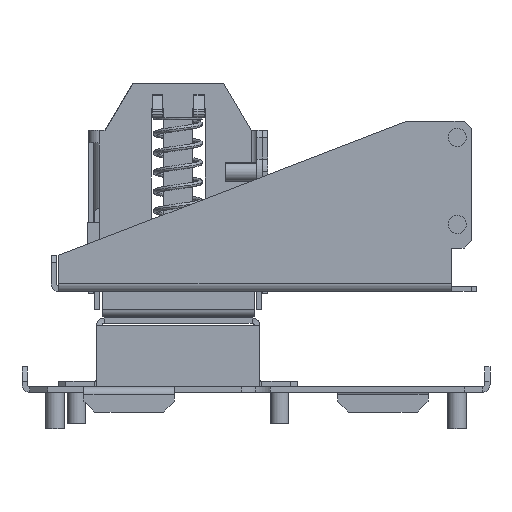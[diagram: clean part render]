
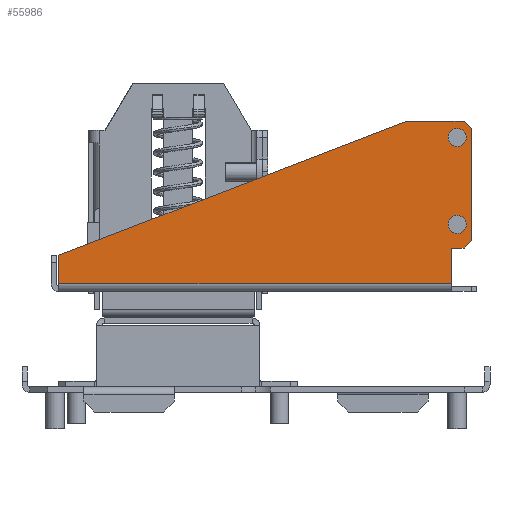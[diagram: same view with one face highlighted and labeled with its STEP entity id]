
A CAD part, left-side view. The second image highlights one B-rep face of the part: STEP entity #55986.
In plain terms, the highlighted planar face has unit normal (-1, 0, 0).
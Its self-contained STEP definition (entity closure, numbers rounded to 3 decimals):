
#50636=CARTESIAN_POINT(' ',(-111.25,-50.4,0.6));
#50637=VERTEX_POINT(' ',#50636);
#50651=CARTESIAN_POINT(' ',(-111.25,-50.4,0.6));
#50656=DIRECTION(' ',(0.,1.,0.));
#50661=VECTOR(' ',#50656,1.);
#50666=LINE('',#50651,#50661);
#50671=CARTESIAN_POINT(' ',(-111.25,58.,0.6));
#50672=VERTEX_POINT(' ',#50671);
#50676=EDGE_CURVE(' ',#50637,#50672,#50666,.T.);
#55456=CARTESIAN_POINT(' ',(-111.25,-50.4,10.5));
#55457=VERTEX_POINT(' ',#55456);
#55471=CARTESIAN_POINT(' ',(-111.25,-50.4,10.5));
#55476=DIRECTION(' ',(0.,0.,-1.));
#55481=VECTOR(' ',#55476,1.);
#55486=LINE('',#55471,#55481);
#55491=EDGE_CURVE(' ',#55457,#50637,#55486,.T.);
#55521=DIRECTION(' ',(-1.,-0.,0.));
#55526=CARTESIAN_POINT(' ',(-111.25,-55.9,45.5));
#55531=DIRECTION(' ',(-0.,1.,0.));
#55536=AXIS2_PLACEMENT_3D(' ',#55526,#55521,#55531);
#55541=PLANE('NONE',#55536);
#55546=CARTESIAN_POINT(' ',(-111.25,-53.9,10.5));
#55551=DIRECTION(' ',(0.,1.,0.));
#55556=VECTOR(' ',#55551,1.);
#55561=LINE('',#55546,#55556);
#55566=CARTESIAN_POINT(' ',(-111.25,-53.9,10.5));
#55567=VERTEX_POINT(' ',#55566);
#55571=EDGE_CURVE(' ',#55567,#55457,#55561,.T.);
#55576=ORIENTED_EDGE(' ',*,*,#55571,.F.);
#55581=CARTESIAN_POINT(' ',(-111.25,-53.9,10.5));
#55586=DIRECTION(' ',(0.,-0.707,0.707));
#55591=VECTOR(' ',#55586,1.);
#55596=LINE('',#55581,#55591);
#55601=CARTESIAN_POINT(' ',(-111.25,-55.9,12.5));
#55602=VERTEX_POINT(' ',#55601);
#55606=EDGE_CURVE(' ',#55567,#55602,#55596,.T.);
#55611=ORIENTED_EDGE(' ',*,*,#55606,.T.);
#55616=CARTESIAN_POINT(' ',(-111.25,-55.9,12.5));
#55621=DIRECTION(' ',(0.,0.,1.));
#55626=VECTOR(' ',#55621,1.);
#55631=LINE('',#55616,#55626);
#55636=CARTESIAN_POINT(' ',(-111.25,-55.9,43.5));
#55637=VERTEX_POINT(' ',#55636);
#55641=EDGE_CURVE(' ',#55602,#55637,#55631,.T.);
#55646=ORIENTED_EDGE(' ',*,*,#55641,.T.);
#55651=CARTESIAN_POINT(' ',(-111.25,-55.9,43.5));
#55656=DIRECTION(' ',(0.,0.707,0.707));
#55661=VECTOR(' ',#55656,1.);
#55666=LINE('',#55651,#55661);
#55671=CARTESIAN_POINT(' ',(-111.25,-53.9,45.5));
#55672=VERTEX_POINT(' ',#55671);
#55676=EDGE_CURVE(' ',#55637,#55672,#55666,.T.);
#55681=ORIENTED_EDGE(' ',*,*,#55676,.T.);
#55686=CARTESIAN_POINT(' ',(-111.25,-53.9,45.5));
#55691=DIRECTION(' ',(0.,1.,0.));
#55696=VECTOR(' ',#55691,1.);
#55701=LINE('',#55686,#55696);
#55706=CARTESIAN_POINT(' ',(-111.25,-38.,45.5));
#55707=VERTEX_POINT(' ',#55706);
#55711=EDGE_CURVE(' ',#55672,#55707,#55701,.T.);
#55716=ORIENTED_EDGE(' ',*,*,#55711,.T.);
#55721=CARTESIAN_POINT(' ',(-111.25,-38.,45.5));
#55726=DIRECTION(' ',(0.,0.933,-0.36));
#55731=VECTOR(' ',#55726,1.);
#55736=LINE('',#55721,#55731);
#55741=CARTESIAN_POINT(' ',(-111.25,58.,8.5));
#55742=VERTEX_POINT(' ',#55741);
#55746=EDGE_CURVE(' ',#55707,#55742,#55736,.T.);
#55751=ORIENTED_EDGE(' ',*,*,#55746,.T.);
#55756=CARTESIAN_POINT(' ',(-111.25,58.,8.5));
#55761=DIRECTION(' ',(0.,0.,-1.));
#55766=VECTOR(' ',#55761,1.);
#55771=LINE('',#55756,#55766);
#55776=EDGE_CURVE(' ',#55742,#50672,#55771,.T.);
#55781=ORIENTED_EDGE(' ',*,*,#55776,.T.);
#55786=ORIENTED_EDGE(' ',*,*,#50676,.F.);
#55791=ORIENTED_EDGE(' ',*,*,#55491,.F.);
#55796=EDGE_LOOP(' ',(#55576,#55611,#55646,#55681,#55716,#55751,#55781,#55786,#55791));
#55801=FACE_OUTER_BOUND(' ',#55796,.T.);
#55806=CARTESIAN_POINT(' ',(-111.25,-52.,41.));
#55811=DIRECTION(' ',(-1.,0.,0.));
#55816=DIRECTION(' ',(0.,0.,1.));
#55821=AXIS2_PLACEMENT_3D(' ',#55806,#55811,#55816);
#55826=CIRCLE('',#55821,2.1);
#55831=CARTESIAN_POINT(' ',(-111.25,-52.,43.1));
#55832=VERTEX_POINT(' ',#55831);
#55836=CARTESIAN_POINT(' ',(-111.25,-52.,38.9));
#55837=VERTEX_POINT(' ',#55836);
#55841=EDGE_CURVE(' ',#55832,#55837,#55826,.T.);
#55846=ORIENTED_EDGE(' ',*,*,#55841,.F.);
#55851=CARTESIAN_POINT(' ',(-111.25,-52.,41.));
#55856=DIRECTION(' ',(-1.,0.,0.));
#55861=DIRECTION(' ',(0.,0.,-1.));
#55866=AXIS2_PLACEMENT_3D(' ',#55851,#55856,#55861);
#55871=CIRCLE('',#55866,2.1);
#55876=EDGE_CURVE(' ',#55837,#55832,#55871,.T.);
#55881=ORIENTED_EDGE(' ',*,*,#55876,.F.);
#55886=EDGE_LOOP(' ',(#55846,#55881));
#55891=FACE_BOUND(' ',#55886,.T.);
#55896=CARTESIAN_POINT(' ',(-111.25,-52.,17.));
#55901=DIRECTION(' ',(-1.,0.,0.));
#55906=DIRECTION(' ',(0.,0.,1.));
#55911=AXIS2_PLACEMENT_3D(' ',#55896,#55901,#55906);
#55916=CIRCLE('',#55911,2.1);
#55921=CARTESIAN_POINT(' ',(-111.25,-52.,19.1));
#55922=VERTEX_POINT(' ',#55921);
#55926=CARTESIAN_POINT(' ',(-111.25,-52.,14.9));
#55927=VERTEX_POINT(' ',#55926);
#55931=EDGE_CURVE(' ',#55922,#55927,#55916,.T.);
#55936=ORIENTED_EDGE(' ',*,*,#55931,.F.);
#55941=CARTESIAN_POINT(' ',(-111.25,-52.,17.));
#55946=DIRECTION(' ',(-1.,0.,0.));
#55951=DIRECTION(' ',(0.,0.,-1.));
#55956=AXIS2_PLACEMENT_3D(' ',#55941,#55946,#55951);
#55961=CIRCLE('',#55956,2.1);
#55966=EDGE_CURVE(' ',#55927,#55922,#55961,.T.);
#55971=ORIENTED_EDGE(' ',*,*,#55966,.F.);
#55976=EDGE_LOOP(' ',(#55936,#55971));
#55981=FACE_BOUND(' ',#55976,.T.);
#55986=ADVANCED_FACE('NONE',(#55801,#55891,#55981),#55541,.T.);
